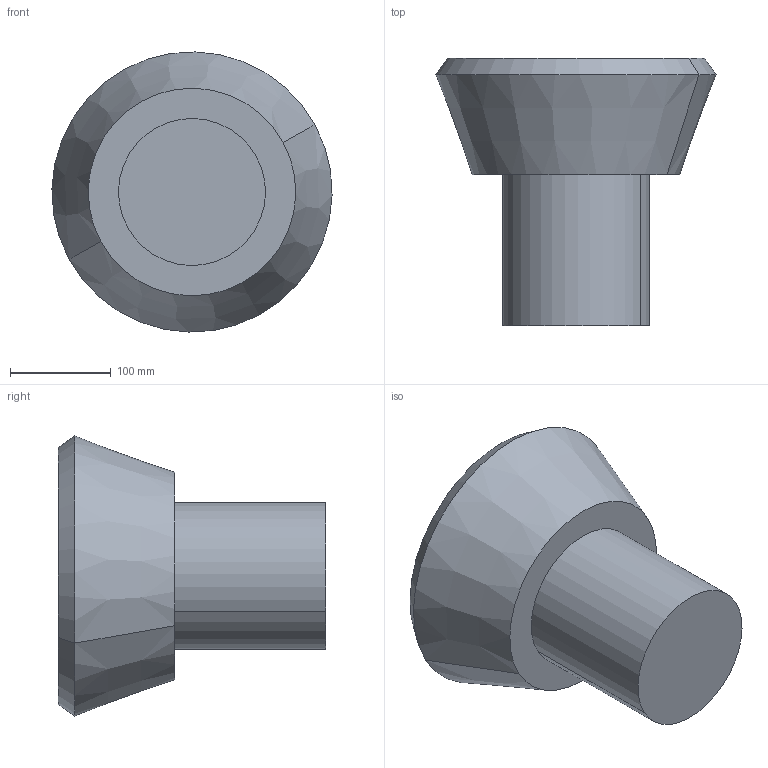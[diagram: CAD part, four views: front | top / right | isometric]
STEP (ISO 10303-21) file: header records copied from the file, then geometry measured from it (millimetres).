
FILE_DESCRIPTION(('CATIA V5 STEP Exchange'),'2;1');
FILE_NAME('C:\_Andres\UNIVERSIDAD\IQS\ASIGNATURAS\DAO\EXF\EXF-15161c\1original\Martínez_Perelló_Ej09-optimiza_v13.stp','2016-03-04T21:55:29+00:00',('none'),('none'),'CATIA Version 5 Release 20 SP 1 (IN-10)','CATIA V5 STEP AP203','none');
FILE_SCHEMA(('CONFIG_CONTROL_DESIGN'));
Length unit declared in the file: millimetre
Products named in the file (1): Martínez_Perelló_Ej09-optimiza_v13
Bounding box: 278.13 x 265.58 x 278.13 mm (x, y, z)
Volume: 8009054.4 mm3; surface area: 254758.8 mm2
Topology: 1 solids, 2 shells, 13 faces, 22 edges, 14 vertices
Faces by surface type: plane 5, cylinder 4, cone 4
Entity records: 324 total; most frequent: CARTESIAN_POINT 47, ORIENTED_EDGE 44, DIRECTION 42, AXIS2_PLACEMENT_3D 25, EDGE_CURVE 22, CIRCLE 14, EDGE_LOOP 14, VERTEX_POINT 14
